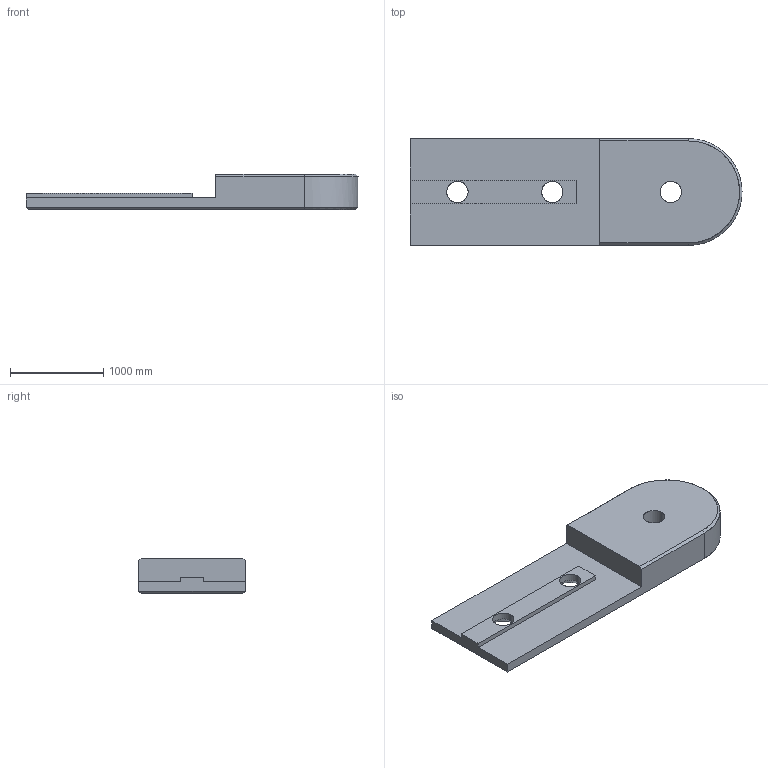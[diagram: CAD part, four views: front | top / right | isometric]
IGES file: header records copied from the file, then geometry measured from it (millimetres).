
Start section: SolidWorks IGES file using analytic representation for surfaces
Global section: file name: C:\Documents and Settings\URETIM3\Desktop\yeni katalog tolgay düzenli\C kataloðu\45x45 alüminyum profil avara plakasý takýmý (sað ve sol)\766 018 008.IGS; native system: SolidWorks 2006 by SolidWorks Corporation; preprocessor: SolidWorks 2006 by SolidWorks Corporation; author: URETIM3; date: 060912.102555; units: inch
Bounding box: 3556 x 1143 x 381 mm (x, y, z)
Surface area: 10418643.8 mm2 (no closed solid volume)
Topology: 0 solids, 0 shells, 33 faces, 692 edges, 692 vertices
Faces by surface type: revolution 17, bspline 16
